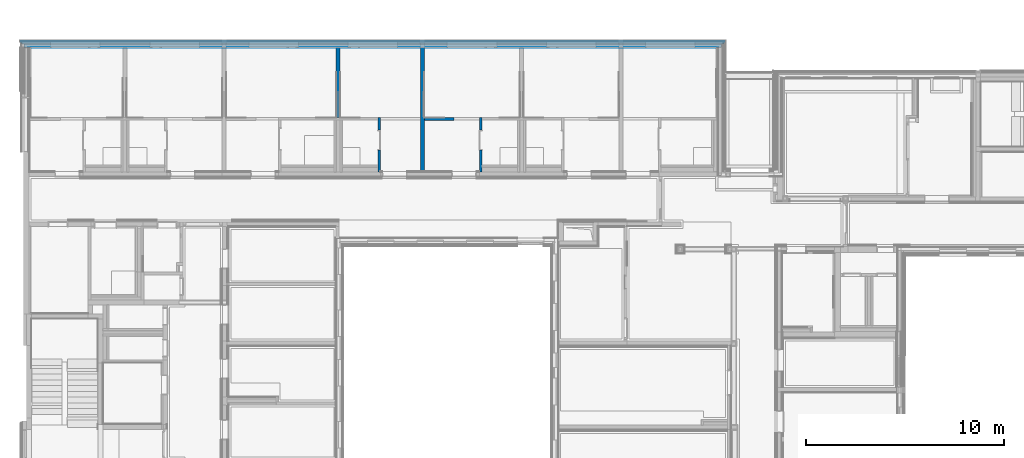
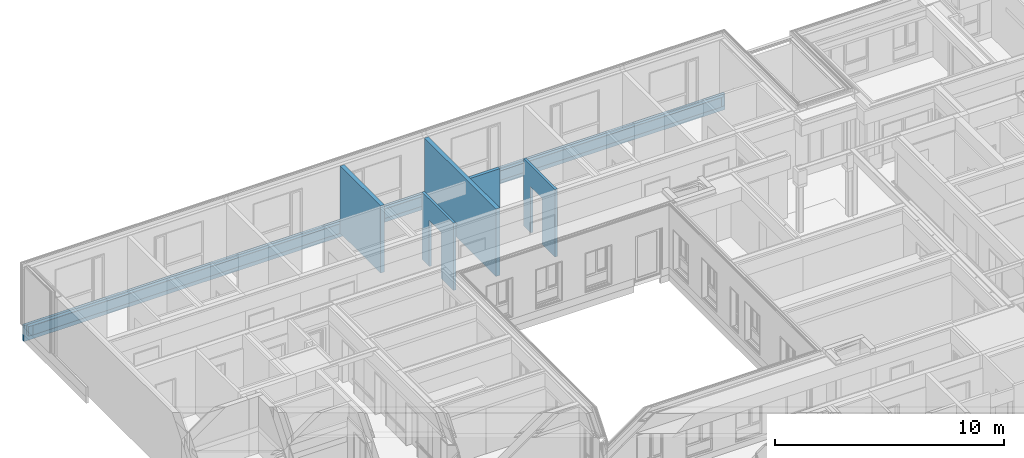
# One storey, part 38 of 207: 9 walls, 2 openings.
"""IFC4 building model written with IfcOpenShell, lengths in metres."""

from ifc_helpers import new_model, entity, si_unit, converted_unit, derived_unit, frame, frame_2d, origin, origin_with_axes, place, context, subcontext, project, spatial, polyline, rectangle, outline, extrude, material, element, save


model = new_model("IFC4")

# Units and contexts
model_context = context("Model", 3, precision=1e-05, world=origin())
body_context = subcontext(model_context, "Body", "Model", "MODEL_VIEW")
ifc_project = project(units=[si_unit("LENGTHUNIT", "METRE"), si_unit("AREAUNIT", "SQUARE_METRE"), si_unit("VOLUMEUNIT", "CUBIC_METRE"), si_unit("MASSUNIT", "GRAM", prefix="KILO"), converted_unit("PLANEANGLEUNIT", "DEGREE", entity("IfcPlaneAngleMeasure", 0.0174532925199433), si_unit("PLANEANGLEUNIT", "RADIAN"), dimensions=[0, 0, 0, 0, 0, 0, 0]), derived_unit("THERMALTRANSMITTANCEUNIT", [(si_unit("POWERUNIT", "WATT"), 1), (si_unit("THERMODYNAMICTEMPERATUREUNIT", "KELVIN"), -1), (si_unit("LENGTHUNIT", "METRE"), -2)]), derived_unit("VOLUMETRICFLOWRATEUNIT", [(si_unit("LENGTHUNIT", "METRE"), 3), (converted_unit("TIMEUNIT", "hour", entity("IfcTimeMeasure", 3600.0), si_unit("TIMEUNIT", "SECOND"), dimensions=[0, 0, 1, 0, 0, 0, 0]), -1), (si_unit("LENGTHUNIT", "METRE"), -1)])], contexts=[model_context])

# Site, building, storey
site_placement = place(None, origin())
site = spatial("IfcSite", under=ifc_project, at=site_placement, Name="Psychiatrie Neubau Wunstorf", CompositionType="ELEMENT")
building_placement = place(site_placement, origin())
building = spatial("IfcBuilding", under=site, at=building_placement, Name="Neubau H2 Stationsgebäude", CompositionType="ELEMENT")
storey_placement = place(building_placement, frame((0.0, 0.0, -0.2)))
storey = spatial("IfcBuildingStorey", under=building, at=storey_placement, Name="H2 Ebene 0", CompositionType="ELEMENT", Elevation=-0.2)

# Walls
ifc_material_1 = material(Name="WA-LB")
wall_1_placement = place(storey_placement, frame((0.135, 30.614, 0.0), z_axis=(0.0, 0.0, 1.0), x_axis=(1.0, -2.09229550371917e-16, 0.0)))
element("IfcWall", 1, at=wall_1_placement, inside=storey, material=ifc_material_1, context=body_context, shape_type="SweptSolid", body=[
    extrude(rectangle(XDim=34.775, YDim=0.021, at=frame_2d((17.3875, 0.0105), x_axis=(1.0, 0.0))), origin_with_axes(), (0.0, 0.0, 1.0), 0.5),
])
ifc_material_2 = material(Name="WA-STB")
wall_2_placement = place(storey_placement, frame((-0.085, 30.635, 0.0), z_axis=(0.0, 0.0, 1.0), x_axis=(1.0, -2.06879659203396e-16, 0.0)))
element("IfcWall", 2, at=wall_2_placement, inside=storey, material=ifc_material_2, context=body_context, shape_type="SweptSolid", body=[
    extrude(rectangle(XDim=35.17, YDim=0.175, at=frame_2d((17.585, 0.0875), x_axis=(1.0, 0.0))), origin_with_axes(), (0.0, 0.0, 1.0), 0.5),
])
ifc_material_3 = material(Name="WA-DE")
wall_3_placement = place(storey_placement, frame((-0.205, 30.81, -0.36), z_axis=(0.0, 0.0, 1.0), x_axis=(1.0, -2.05477481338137e-16, 0.0)))
element("IfcWall", 3, at=wall_3_placement, inside=storey, material=ifc_material_3, context=body_context, shape_type="SweptSolid", body=[
    extrude(rectangle(XDim=35.41, YDim=0.12, at=frame_2d((17.705, 0.06), x_axis=(1.0, 0.0))), origin_with_axes(), (0.0, 0.0, 1.0), 0.86),
])
ifc_material_4 = material(Name="WA-LB")
wall_4_placement = place(storey_placement, frame((-0.22, 30.93, 0.0), z_axis=(0.0, 0.0, 1.0), x_axis=(1.0, -2.05303544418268e-16, 0.0)))
element("IfcWall", 4, at=wall_4_placement, inside=storey, material=ifc_material_4, context=body_context, shape_type="SweptSolid", body=[
    extrude(rectangle(XDim=35.44, YDim=0.015, at=frame_2d((17.72, 0.0075), x_axis=(1.0, 0.0))), origin_with_axes(), (0.0, 0.0, 1.0), 0.5),
])

# Wall, opening
ifc_material_5 = material(Name="WI-LB")
wall_5_placement = place(storey_placement, frame((22.875, 27.0895, 0.0), z_axis=(0.0, 0.0, 1.0), x_axis=(0.0, -1.0, 0.0)))
wall_5 = element("IfcWall", 5, at=wall_5_placement, inside=storey, material=ifc_material_5, context=body_context, shape_type="SweptSolid", body=[
    extrude(rectangle(XDim=2.73999999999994, YDim=0.125, at=frame_2d((1.36999999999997, 0.0625), x_axis=(1.0, 0.0))), origin_with_axes(), (0.0, 0.0, 1.0), 3.6),
])
opening_1_placement = place(wall_5_placement, frame((1.635, 0.125, 0.0), z_axis=(0.0, -1.0, 0.0), x_axis=(0.0, 0.0, 1.0)))
element("IfcOpeningElement", 6, at=opening_1_placement, cuts=wall_5, Name="Türöffnung", ObjectType="Opening", context=body_context, shape_type="SweptSolid", body=[
    extrude(outline(polyline([(2.46, 1.01), (2.46, 0.0), (0.0, 0.0), (0.0, 1.01), (2.46, 1.01)])), origin_with_axes(), (0.0, 0.0, 1.0), 0.125),
])

# Wall
ifc_material_6 = material(Name="WI-LB")
wall_6_placement = place(storey_placement, frame((15.65, 30.614, 0.0), z_axis=(0.0, 0.0, 1.0), x_axis=(0.0, -1.0, 0.0)))
element("IfcWall", 7, at=wall_6_placement, inside=storey, material=ifc_material_6, context=body_context, shape_type="SweptSolid", body=[
    extrude(rectangle(XDim=3.5245, YDim=0.2, at=frame_2d((1.76225, 0.1), x_axis=(1.0, 0.0))), origin_with_axes(), (0.0, 0.0, 1.0), 3.6),
])

# Wall, opening
ifc_material_7 = material(Name="WI-LB")
wall_7_placement = place(storey_placement, frame((17.875, 24.3495, 0.0), z_axis=(0.0, 0.0, 1.0), x_axis=(0.0, 1.0, 0.0)))
wall_7 = element("IfcWall", 8, at=wall_7_placement, inside=storey, material=ifc_material_7, context=body_context, shape_type="SweptSolid", body=[
    extrude(rectangle(XDim=2.73999999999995, YDim=0.125, at=frame_2d((1.36999999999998, 0.0625), x_axis=(1.0, 0.0))), origin_with_axes(), (0.0, 0.0, 1.0), 3.6),
])
opening_2_placement = place(wall_7_placement, frame((2.11499999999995, 0.125, 0.0), z_axis=(0.0, -1.0, 0.0), x_axis=(0.0, 0.0, 1.0)))
element("IfcOpeningElement", 9, at=opening_2_placement, cuts=wall_7, Name="Türöffnung", ObjectType="Opening", context=body_context, shape_type="SweptSolid", body=[
    extrude(outline(polyline([(2.46, 1.01), (2.46, 0.0), (0.0, 0.0), (0.0, 1.01), (2.46, 1.01)])), origin_with_axes(), (0.0, 0.0, 1.0), 0.125),
])

# Walls
ifc_material_8 = material(Name="WI-LB")
wall_8_placement = place(storey_placement, frame((19.9, 30.614, 0.0), z_axis=(0.0, 0.0, 1.0), x_axis=(0.0, -1.0, 0.0)))
element("IfcWall", 10, at=wall_8_placement, inside=storey, material=ifc_material_8, context=body_context, shape_type="SweptSolid", body=[
    extrude(rectangle(XDim=6.26449999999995, YDim=0.2, at=frame_2d((3.13224999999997, 0.1), x_axis=(1.0, 0.0))), origin_with_axes(), (0.0, 0.0, 1.0), 3.6),
])
ifc_material_9 = material(Name="WI-LB")
wall_9_placement = place(storey_placement, frame((20.1, 26.9395, 0.0)))
element("IfcWall", 11, at=wall_9_placement, inside=storey, material=ifc_material_9, context=body_context, shape_type="SweptSolid", body=[
    extrude(rectangle(XDim=1.5, YDim=0.15, at=frame_2d((0.75, 0.075), x_axis=(1.0, 0.0))), origin_with_axes(), (0.0, 0.0, 1.0), 3.6),
])

save(model, "model.ifc")
